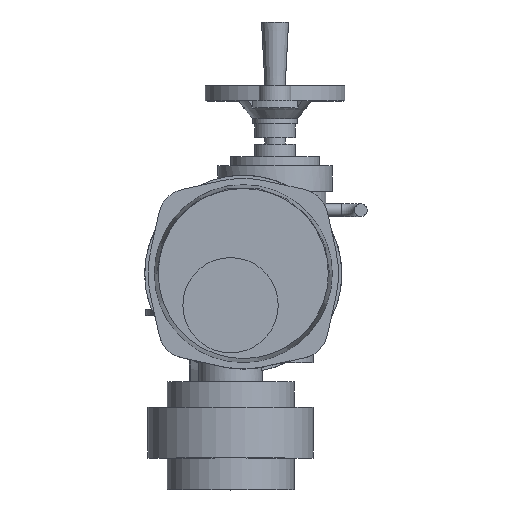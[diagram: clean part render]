
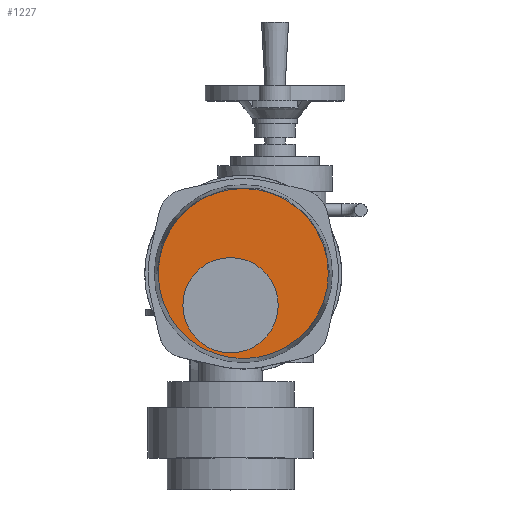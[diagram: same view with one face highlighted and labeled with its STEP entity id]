
A CAD part, top view. The second image highlights one B-rep face of the part: STEP entity #1227.
In plain terms, the highlighted planar face has unit normal (0, 0, 1).
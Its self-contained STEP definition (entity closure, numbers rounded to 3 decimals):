
#1227=ADVANCED_FACE('',(#2717,#2719),#2721,.T.);
#2717=FACE_BOUND('',#2718,.T.);
#2718=EDGE_LOOP('',(#3724));
#2719=FACE_BOUND('',#2720,.T.);
#2720=EDGE_LOOP('',(#3725));
#2721=PLANE('',#2722);
#2722=AXIS2_PLACEMENT_3D('',#2723,#2724,#2725);
#2723=CARTESIAN_POINT('',(15.,30.,415.));
#2724=DIRECTION('',(0.,0.,1.));
#2725=DIRECTION('',(-1.,0.,0.));
#3724=ORIENTED_EDGE('',*,*,#4200,.T.);
#3725=ORIENTED_EDGE('',*,*,#4240,.F.);
#4200=EDGE_CURVE('',#4801,#4801,#4802,.T.);
#4240=EDGE_CURVE('',#4861,#4861,#4862,.T.);
#4801=VERTEX_POINT('',#7589);
#4802=CIRCLE('',#7590,66.908);
#4861=VERTEX_POINT('',#7744);
#4862=CIRCLE('',#7745,37.5);
#7589=CARTESIAN_POINT('',(-51.908,30.,415.));
#7590=AXIS2_PLACEMENT_3D('',#7591,#7592,#7593);
#7591=CARTESIAN_POINT('',(15.,30.,415.));
#7592=DIRECTION('',(0.,0.,1.));
#7593=DIRECTION('',(-1.,0.,0.));
#7744=CARTESIAN_POINT('',(-32.5,5.,415.));
#7745=AXIS2_PLACEMENT_3D('',#7746,#7747,#7748);
#7746=CARTESIAN_POINT('',(5.,5.,415.));
#7747=DIRECTION('',(0.,0.,1.));
#7748=DIRECTION('',(-1.,0.,0.));
